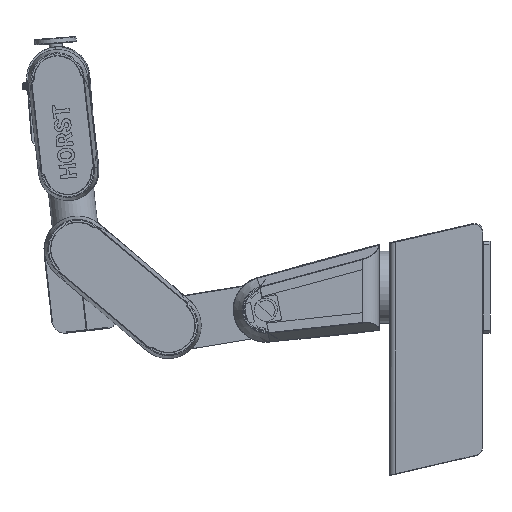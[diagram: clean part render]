
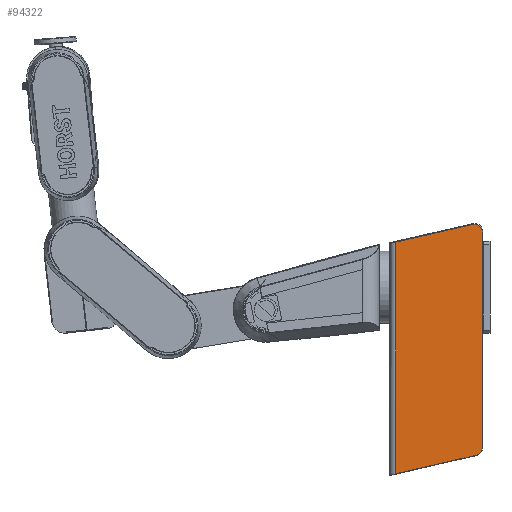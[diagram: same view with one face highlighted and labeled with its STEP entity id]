
A CAD part, left-side view. The second image highlights one B-rep face of the part: STEP entity #94322.
In plain terms, the highlighted planar face has unit normal (-1, 0, 0).
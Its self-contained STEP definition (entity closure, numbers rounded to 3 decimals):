
#13533 = EDGE_CURVE ( 'NONE', #34510, #73062, #56619, .T. ) ;
#14703 = CARTESIAN_POINT ( 'NONE',  ( -76.25, 11.3, 99.437 ) ) ;
#21049 = ORIENTED_EDGE ( 'NONE', *, *, #189227, .F. ) ;
#26625 = CARTESIAN_POINT ( 'NONE',  ( -76.25, 143.3, -283.601 ) ) ;
#27546 = DIRECTION ( 'NONE',  ( -1., 0., 0. ) ) ;
#28842 = CARTESIAN_POINT ( 'NONE',  ( -76.25, 143.3, 99.437 ) ) ;
#34510 = VERTEX_POINT ( 'NONE', #157241 ) ;
#34730 = DIRECTION ( 'NONE',  ( 0., 0., 1. ) ) ;
#35775 = CARTESIAN_POINT ( 'NONE',  ( -76.25, 26.612, 95.902 ) ) ;
#40725 = CARTESIAN_POINT ( 'NONE',  ( -76.25, 151.8, -285.563 ) ) ;
#41804 = DIRECTION ( 'NONE',  ( 0., 0., 1. ) ) ;
#50599 = CARTESIAN_POINT ( 'NONE',  ( -76.25, 11.3, -243.183 ) ) ;
#52663 = DIRECTION ( 'NONE',  ( -1., 0., 0. ) ) ;
#55594 = DIRECTION ( 'NONE',  ( 0., 0., -1. ) ) ;
#56619 = LINE ( 'NONE', #40725, #90910 ) ;
#56915 = VECTOR ( 'NONE', #113520, 1000. ) ;
#66036 = DIRECTION ( 'NONE',  ( 0., 0., 1. ) ) ;
#66459 = PLANE ( 'NONE',  #92417 ) ;
#67027 = ORIENTED_EDGE ( 'NONE', *, *, #102764, .T. ) ;
#73062 = VERTEX_POINT ( 'NONE', #26625 ) ;
#82488 = CARTESIAN_POINT ( 'NONE',  ( -76.25, 143.3, 68.962 ) ) ;
#90910 = VECTOR ( 'NONE', #102380, 1000. ) ;
#91725 = EDGE_CURVE ( 'NONE', #135789, #123988, #113729, .T. ) ;
#92417 = AXIS2_PLACEMENT_3D ( 'NONE', #125214, #157028, #34730 ) ;
#94322 = ADVANCED_FACE ( 'NONE', ( #156061 ), #66459, .T. ) ;
#102380 = DIRECTION ( 'NONE',  ( 0., 0.974, -0.225 ) ) ;
#102764 = EDGE_CURVE ( 'NONE', #34510, #180062, #185405, .T. ) ;
#105082 = DIRECTION ( 'NONE',  ( 0., 0., 1. ) ) ;
#113520 = DIRECTION ( 'NONE',  ( 0., -0.974, 0.225 ) ) ;
#113729 = CIRCLE ( 'NONE', #180393, 12.5 ) ;
#115973 = CARTESIAN_POINT ( 'NONE',  ( -76.25, 11.3, 83.722 ) ) ;
#123988 = VERTEX_POINT ( 'NONE', #35775 ) ;
#125214 = CARTESIAN_POINT ( 'NONE',  ( -76.25, 11.3, 99.437 ) ) ;
#126972 = ORIENTED_EDGE ( 'NONE', *, *, #185440, .F. ) ;
#130064 = VECTOR ( 'NONE', #66036, 1000. ) ;
#131254 = CARTESIAN_POINT ( 'NONE',  ( -76.25, 23.8, -243.183 ) ) ;
#135789 = VERTEX_POINT ( 'NONE', #115973 ) ;
#136197 = EDGE_LOOP ( 'NONE', ( #21049, #126972, #171893, #67027, #150268, #143675 ) ) ;
#143675 = ORIENTED_EDGE ( 'NONE', *, *, #91725, .T. ) ;
#150268 = ORIENTED_EDGE ( 'NONE', *, *, #189908, .T. ) ;
#156061 = FACE_OUTER_BOUND ( 'NONE', #136197, .T. ) ;
#157028 = DIRECTION ( 'NONE',  ( -1., 0., 0. ) ) ;
#157241 = CARTESIAN_POINT ( 'NONE',  ( -76.25, 20.988, -255.363 ) ) ;
#163129 = AXIS2_PLACEMENT_3D ( 'NONE', #131254, #52663, #55594 ) ;
#164320 = VERTEX_POINT ( 'NONE', #82488 ) ;
#171893 = ORIENTED_EDGE ( 'NONE', *, *, #13533, .F. ) ;
#179651 = CARTESIAN_POINT ( 'NONE',  ( -76.25, 23.8, 83.722 ) ) ;
#180062 = VERTEX_POINT ( 'NONE', #50599 ) ;
#180393 = AXIS2_PLACEMENT_3D ( 'NONE', #179651, #27546, #105082 ) ;
#180740 = LINE ( 'NONE', #14703, #56915 ) ;
#184433 = LINE ( 'NONE', #186368, #130064 ) ;
#185405 = CIRCLE ( 'NONE', #163129, 12.5 ) ;
#185440 = EDGE_CURVE ( 'NONE', #73062, #164320, #192891, .T. ) ;
#186368 = CARTESIAN_POINT ( 'NONE',  ( -76.25, 11.3, 99.437 ) ) ;
#189227 = EDGE_CURVE ( 'NONE', #164320, #123988, #180740, .T. ) ;
#189908 = EDGE_CURVE ( 'NONE', #180062, #135789, #184433, .T. ) ;
#190993 = VECTOR ( 'NONE', #41804, 1000. ) ;
#192891 = LINE ( 'NONE', #28842, #190993 ) ;
